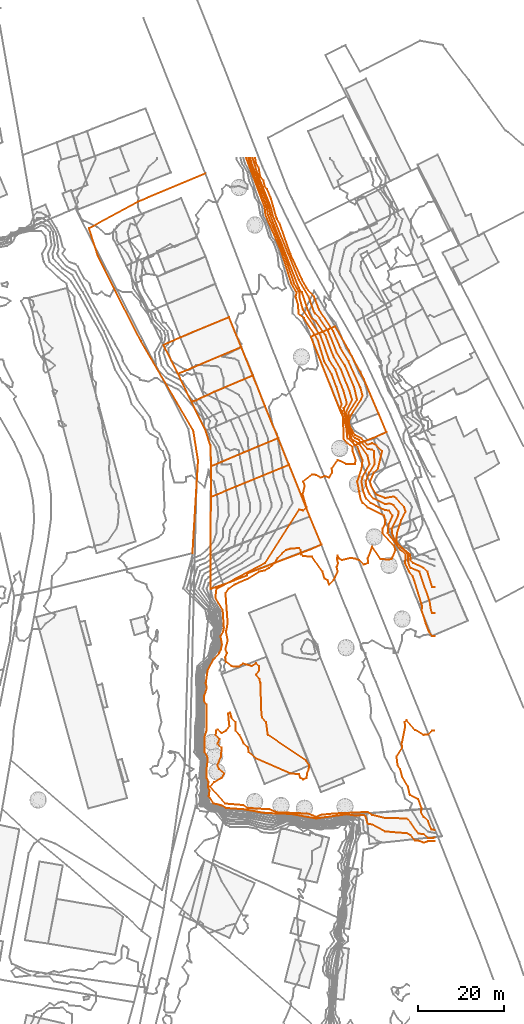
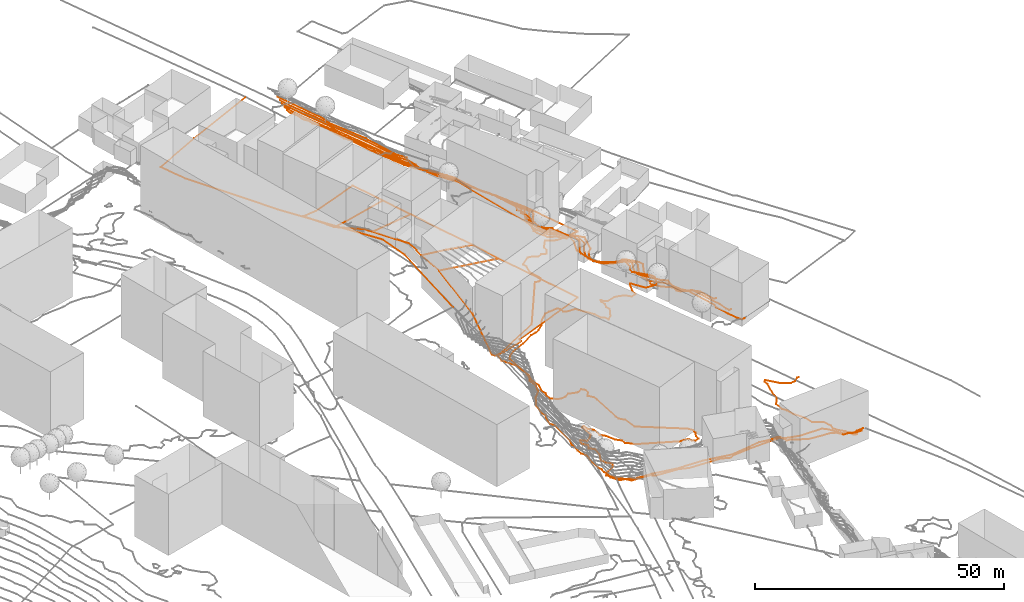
# Not in any storey, part 383 of 419: 13 proxies.
"""IFC2X3 model written with IfcOpenShell, lengths in metres."""

from ifc_helpers import new_model, entity, si_unit, frame, origin_with_axes, place, context, subcontext, project, element, save


model = new_model("IFC2X3")

# Units and contexts
model_context = context("Model", 3, precision=1e-05, world=origin_with_axes())
body_context = subcontext(model_context, "Body", "Model", "MODEL_VIEW")
ifc_project = project(units=[si_unit("AREAUNIT", "SQUARE_METRE"), si_unit("LENGTHUNIT", "METRE")], contexts=[model_context])

# Proxies
proxy_1_placement = place(None, frame((896.1920204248, 1015.7976909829, 93.6), z_axis=(0.0, 0.0, 1.0), x_axis=(1.0, 0.0, 0.0)))
element("IfcBuildingElementProxy", 1, at=proxy_1_placement, Name="Route 287", ObjectType="NOTDEFINED", context=body_context, shape_type="GeometricCurveSet", body=[
    entity("IfcGeometricCurveSet", [entity("IfcPolyline", [entity("IfcCartesianPoint", [27.1, 12.7999999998, -0.1]), entity("IfcCartesianPoint", [11.4, 6.1999999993, -0.7]), entity("IfcCartesianPoint", [0.0, 0.0, 0.0]), entity("IfcCartesianPoint", [2.1, -6.5, 0.4]), entity("IfcCartesianPoint", [12.1, -26.3000000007, 1.3]), entity("IfcCartesianPoint", [24.3, -47.1000000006, 2.3]), entity("IfcCartesianPoint", [25.4, -54.0, 2.4]), entity("IfcCartesianPoint", [24.1, -75.6000000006, 3.2])])]),
])
proxy_2_placement = place(None, frame((916.9020204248, 981.9576909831, 92.1834995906), z_axis=(0.0, 0.0, 1.0), x_axis=(1.0, 0.0, 0.0)))
element("IfcBuildingElementProxy", 2, at=proxy_2_placement, Name="Cadastre 226", ObjectType="NOTDEFINED", context=body_context, shape_type="GeometricCurveSet", body=[
    entity("IfcGeometricCurveSet", [entity("IfcPolyline", [entity("IfcCartesianPoint", [17.4399999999, -0.4000000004, -2.737999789]), entity("IfcCartesianPoint", [8.5499999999, -4.1800000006, -0.5573675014]), entity("IfcCartesianPoint", [6.09, -5.29, 0.0555395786]), entity("IfcCartesianPoint", [4.1899999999, -6.21, 1.3675011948]), entity("IfcCartesianPoint", [3.14, -6.5100000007, 2.3468008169]), entity("IfcCartesianPoint", [0.0, 0.0, 0.0]), entity("IfcCartesianPoint", [3.47, 1.4099999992, -0.7079582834]), entity("IfcCartesianPoint", [14.74, 6.1899999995, -2.4209987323]), entity("IfcCartesianPoint", [17.4399999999, -0.4000000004, -2.737999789])])]),
])
proxy_3_placement = place(None, frame((913.5520204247, 988.667690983, 91.9452704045), z_axis=(0.0, 0.0, 1.0), x_axis=(1.0, 0.0, 0.0)))
element("IfcBuildingElementProxy", 3, at=proxy_3_placement, Name="Cadastre 227", ObjectType="NOTDEFINED", context=body_context, shape_type="GeometricCurveSet", body=[
    entity("IfcGeometricCurveSet", [entity("IfcPolyline", [entity("IfcCartesianPoint", [18.0900000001, -0.5200000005, -2.1827695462]), entity("IfcCartesianPoint", [6.8200000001, -5.3000000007, -0.4697290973]), entity("IfcCartesianPoint", [3.3500000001, -6.71, 0.2382291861]), entity("IfcCartesianPoint", [0.0, 0.0, 0.0]), entity("IfcCartesianPoint", [3.9300000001, 1.7699999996, -1.1996286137]), entity("IfcCartesianPoint", [15.2300000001, 6.46, -1.7477330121]), entity("IfcCartesianPoint", [18.0900000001, -0.5200000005, -2.1827695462])])]),
])
proxy_4_placement = place(None, frame((924.5120204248, 939.6776909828, 94.0110223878), z_axis=(0.0, 0.0, 1.0), x_axis=(1.0, 0.0, 0.0)))
element("IfcBuildingElementProxy", 4, at=proxy_4_placement, Name="Cadastre 235", ObjectType="NOTDEFINED", context=body_context, shape_type="GeometricCurveSet", body=[
    entity("IfcGeometricCurveSet", [entity("IfcPolyline", [entity("IfcCartesianPoint", [25.7899999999, 2.54, -6.6321088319]), entity("IfcCartesianPoint", [23.14, 1.3499999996, -6.618078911]), entity("IfcCartesianPoint", [8.47, -4.2199999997, -6.7166226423]), entity("IfcCartesianPoint", [8.5, -4.6600000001, -6.957506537]), entity("IfcCartesianPoint", [3.01, -6.79, -6.5074188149]), entity("IfcCartesianPoint", [0.88, -7.4699999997, -6.0826634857]), entity("IfcCartesianPoint", [0.03, -7.7999999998, -5.3971232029]), entity("IfcCartesianPoint", [0.0, 0.0, 0.0]), entity("IfcCartesianPoint", [0.0699999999, 13.5999999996, 2.2431777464]), entity("IfcCartesianPoint", [18.23, 21.0800000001, -5.7138399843]), entity("IfcCartesianPoint", [23.08, 9.0499999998, -6.2475220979]), entity("IfcCartesianPoint", [25.7899999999, 2.54, -6.6321088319])])]),
])
proxy_5_placement = place(None, frame((924.5820204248, 953.2776909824, 96.2542001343), z_axis=(0.0, 0.0, 1.0), x_axis=(1.0, 0.0, 0.0)))
element("IfcBuildingElementProxy", 5, at=proxy_5_placement, Name="Cadastre 236", ObjectType="NOTDEFINED", context=body_context, shape_type="GeometricCurveSet", body=[
    entity("IfcGeometricCurveSet", [entity("IfcPolyline", [entity("IfcCartesianPoint", [0.0, 0.0, 0.0]), entity("IfcCartesianPoint", [0.03, 7.1400000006, -0.6176387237]), entity("IfcCartesianPoint", [7.67, 10.3799999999, -3.8865161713]), entity("IfcCartesianPoint", [15.67, 13.6699999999, -7.4884296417]), entity("IfcCartesianPoint", [18.16, 7.4800000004, -7.9570177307]), entity("IfcCartesianPoint", [0.0, 0.0, 0.0])])]),
])
proxy_6_placement = place(None, frame((920.0420204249, 975.4476909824, 94.5303004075), z_axis=(0.0, 0.0, 1.0), x_axis=(1.0, 0.0, 0.0)))
element("IfcBuildingElementProxy", 6, at=proxy_6_placement, Name="Cadastre 237", ObjectType="NOTDEFINED", context=body_context, shape_type="GeometricCurveSet", body=[
    entity("IfcGeometricCurveSet", [entity("IfcPolyline", [entity("IfcCartesianPoint", [4.5699999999, -15.0299999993, 1.1062610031]), entity("IfcCartesianPoint", [4.5399999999, -13.1099999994, 1.2907532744]), entity("IfcCartesianPoint", [4.4199999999, -10.1899999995, 1.1722105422]), entity("IfcCartesianPoint", [3.3099999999, -6.71, 0.4915562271]), entity("IfcCartesianPoint", [0.0, 0.0, 0.0]), entity("IfcCartesianPoint", [1.0499999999, 0.3000000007, -0.9792996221]), entity("IfcCartesianPoint", [2.95, 1.2200000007, -2.2912612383]), entity("IfcCartesianPoint", [5.4099999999, 2.3300000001, -2.9041683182]), entity("IfcCartesianPoint", [14.2999999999, 6.1100000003, -5.0848006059]), entity("IfcCartesianPoint", [17.12, -1.04, -5.4589894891]), entity("IfcCartesianPoint", [20.21, -8.5, -5.764529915]), entity("IfcCartesianPoint", [12.21, -11.79, -2.1626164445]), entity("IfcCartesianPoint", [4.5699999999, -15.0299999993, 1.1062610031])])]),
])
proxy_7_placement = place(None, frame((947.8620204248, 990.5976909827, 88.8246007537), z_axis=(0.0, 0.0, 1.0), x_axis=(1.0, 0.0, 0.0)))
element("IfcBuildingElementProxy", 7, at=proxy_7_placement, Name="Cadastre 241", ObjectType="NOTDEFINED", context=body_context, shape_type="GeometricCurveSet", body=[
    entity("IfcGeometricCurveSet", [entity("IfcPolyline", [entity("IfcCartesianPoint", [0.0, 0.0, 0.0]), entity("IfcCartesianPoint", [1.76, 0.7299999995, -1.8309334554]), entity("IfcCartesianPoint", [5.66, 2.3700000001, -5.7954689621]), entity("IfcCartesianPoint", [8.86, -3.2300000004, -5.9925378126]), entity("IfcCartesianPoint", [10.21, -5.9400000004, -5.9230501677]), entity("IfcCartesianPoint", [11.52, -8.25, -6.0480393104]), entity("IfcCartesianPoint", [12.37, -10.0300000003, -6.0479096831]), entity("IfcCartesianPoint", [15.77, -17.9299999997, -6.3638503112]), entity("IfcCartesianPoint", [17.5600000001, -22.2300000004, -6.4800054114]), entity("IfcCartesianPoint", [14.49, -23.6100000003, -5.5554055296]), entity("IfcCartesianPoint", [11.4399999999, -24.6900000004, -3.5456808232]), entity("IfcCartesianPoint", [10.12, -25.3100000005, -1.5341977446]), entity("IfcCartesianPoint", [9.51, -23.7199999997, -2.8202721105]), entity("IfcCartesianPoint", [8.42, -20.79, -3.794284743]), entity("IfcCartesianPoint", [7.61, -19.1399999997, -2.6668717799]), entity("IfcCartesianPoint", [0.0, 0.0, 0.0])])]),
])
proxy_8_placement = place(None, frame((934.8481169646, 1032.3976909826, 84.0), z_axis=(0.0, 0.0, 1.0), x_axis=(1.0, 0.0, 0.0)))
element("IfcBuildingElementProxy", 8, at=proxy_8_placement, Name="Contour 84.0 m", ObjectType="NOTDEFINED", context=body_context, shape_type="GeometricCurveSet", body=[
    entity("IfcGeometricCurveSet", [entity("IfcPolyline", [entity("IfcCartesianPoint", [0.0, 0.0, 0.0]), entity("IfcCartesianPoint", [0.2439034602, -1.4523887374, 0.0]), entity("IfcCartesianPoint", [0.8571094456, -2.5, 0.0]), entity("IfcCartesianPoint", [1.203418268, -4.5, 0.0]), entity("IfcCartesianPoint", [1.959286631, -5.5, 0.0]), entity("IfcCartesianPoint", [2.2439034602, -6.798852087, 0.0]), entity("IfcCartesianPoint", [2.8193770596, -7.5, 0.0]), entity("IfcCartesianPoint", [3.6661254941, -9.5, 0.0]), entity("IfcCartesianPoint", [5.0951853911, -14.5, 0.0]), entity("IfcCartesianPoint", [5.7439043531, -15.5, 0.0]), entity("IfcCartesianPoint", [8.2439034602, -22.5657933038, 0.0]), entity("IfcCartesianPoint", [10.9362107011, -28.5, 0.0]), entity("IfcCartesianPoint", [12.0124993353, -30.5, 0.0]), entity("IfcCartesianPoint", [13.7378826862, -32.5, 0.0]), entity("IfcCartesianPoint", [14.9105701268, -35.5, 0.0]), entity("IfcCartesianPoint", [18.1979255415, -40.5, 0.0]), entity("IfcCartesianPoint", [19.8986659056, -44.5, 0.0]), entity("IfcCartesianPoint", [21.7215162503, -47.5, 0.0]), entity("IfcCartesianPoint", [24.484412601, -53.5, 0.0]), entity("IfcCartesianPoint", [25.0247213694, -55.5, 0.0]), entity("IfcCartesianPoint", [24.6456882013, -56.5, 0.0]), entity("IfcCartesianPoint", [22.2439034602, -60.1849283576, 0.0]), entity("IfcCartesianPoint", [21.8527468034, -61.5, 0.0]), entity("IfcCartesianPoint", [22.0100318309, -62.5, 0.0]), entity("IfcCartesianPoint", [23.2439034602, -64.7302157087, 0.0]), entity("IfcCartesianPoint", [24.7867587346, -65.5, 0.0]), entity("IfcCartesianPoint", [26.2439034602, -66.9951482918, 0.0]), entity("IfcCartesianPoint", [27.2439034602, -66.6369850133, 0.0]), entity("IfcCartesianPoint", [28.2439034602, -67.1610200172, 0.0]), entity("IfcCartesianPoint", [29.583190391, -68.5, 0.0]), entity("IfcCartesianPoint", [28.602110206, -72.5, 0.0]), entity("IfcCartesianPoint", [27.6395069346, -73.5, 0.0]), entity("IfcCartesianPoint", [26.7488550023, -75.5, 0.0]), entity("IfcCartesianPoint", [26.9648363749, -76.5, 0.0]), entity("IfcCartesianPoint", [28.2439034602, -78.5526326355, 0.0]), entity("IfcCartesianPoint", [30.2439034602, -79.3695695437, 0.0]), entity("IfcCartesianPoint", [32.2439034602, -79.0342488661, 0.0]), entity("IfcCartesianPoint", [32.983027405, -79.5, 0.0]), entity("IfcCartesianPoint", [34.7439051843, -81.5, 0.0]), entity("IfcCartesianPoint", [35.0216765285, -82.5, 0.0]), entity("IfcCartesianPoint", [34.0189039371, -84.5, 0.0]), entity("IfcCartesianPoint", [33.0314045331, -87.5, 0.0]), entity("IfcCartesianPoint", [32.9553129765, -89.5, 0.0]), entity("IfcCartesianPoint", [34.2439034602, -91.040625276, 0.0]), entity("IfcCartesianPoint", [36.0802665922, -92.5, 0.0]), entity("IfcCartesianPoint", [36.2439034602, -93.9090893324, 0.0]), entity("IfcCartesianPoint", [36.8091266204, -94.5, 0.0]), entity("IfcCartesianPoint", [39.2439034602, -95.6296288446, 0.0]), entity("IfcCartesianPoint", [40.1142746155, -96.5, 0.0]), entity("IfcCartesianPoint", [41.2439034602, -100.0624910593, 0.0]), entity("IfcCartesianPoint", [41.7439034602, -100.0624910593, 0.0])])]),
])
proxy_9_placement = place(None, frame((934.2383606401, 1032.3976909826, 85.0), z_axis=(0.0, 0.0, 1.0), x_axis=(1.0, 0.0, 0.0)))
element("IfcBuildingElementProxy", 9, at=proxy_9_placement, Name="Contour 85.0 m", ObjectType="NOTDEFINED", context=body_context, shape_type="GeometricCurveSet", body=[
    entity("IfcGeometricCurveSet", [entity("IfcPolyline", [entity("IfcCartesianPoint", [0.0, 0.0, 0.0]), entity("IfcCartesianPoint", [1.4083164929, -4.5, 0.0]), entity("IfcCartesianPoint", [4.2643736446, -11.5, 0.0]), entity("IfcCartesianPoint", [4.7199701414, -13.5, 0.0]), entity("IfcCartesianPoint", [10.8536597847, -28.6886768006, 0.0]), entity("IfcCartesianPoint", [13.0874274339, -32.5, 0.0]), entity("IfcCartesianPoint", [14.5469886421, -36.5, 0.0]), entity("IfcCartesianPoint", [15.586997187, -37.5, 0.0]), entity("IfcCartesianPoint", [17.6463448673, -40.5, 0.0]), entity("IfcCartesianPoint", [19.6408958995, -45.5, 0.0]), entity("IfcCartesianPoint", [21.5293374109, -48.5, 0.0]), entity("IfcCartesianPoint", [23.686993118, -53.5, 0.0]), entity("IfcCartesianPoint", [24.3490716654, -56.5, 0.0]), entity("IfcCartesianPoint", [22.4072323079, -59.5, 0.0]), entity("IfcCartesianPoint", [22.1223673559, -61.5, 0.0]), entity("IfcCartesianPoint", [23.1552470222, -64.5, 0.0]), entity("IfcCartesianPoint", [23.8536597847, -65.4496404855, 0.0]), entity("IfcCartesianPoint", [24.8536597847, -65.8467750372, 0.0]), entity("IfcCartesianPoint", [26.8536597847, -67.9615412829, 0.0]), entity("IfcCartesianPoint", [27.8536597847, -68.1379337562, 0.0]), entity("IfcCartesianPoint", [28.3101804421, -68.5, 0.0]), entity("IfcCartesianPoint", [28.433204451, -71.5, 0.0]), entity("IfcCartesianPoint", [27.1728111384, -73.5, 0.0]), entity("IfcCartesianPoint", [26.3685107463, -75.5, 0.0]), entity("IfcCartesianPoint", [26.477422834, -76.5, 0.0]), entity("IfcCartesianPoint", [27.2682896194, -78.5, 0.0]), entity("IfcCartesianPoint", [28.2025002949, -79.5, 0.0]), entity("IfcCartesianPoint", [30.8536597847, -80.8142854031, 0.0]), entity("IfcCartesianPoint", [31.8536597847, -80.623283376, 0.0]), entity("IfcCartesianPoint", [32.8536597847, -81.0116303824, 0.0]), entity("IfcCartesianPoint", [34.0536597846, -82.5, 0.0]), entity("IfcCartesianPoint", [33.9030437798, -83.5, 0.0]), entity("IfcCartesianPoint", [32.4412875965, -86.5, 0.0]), entity("IfcCartesianPoint", [32.4909135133, -87.5, 0.0]), entity("IfcCartesianPoint", [33.2294992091, -89.5, 0.0]), entity("IfcCartesianPoint", [36.2354768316, -92.5, 0.0]), entity("IfcCartesianPoint", [36.3014210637, -94.5, 0.0]), entity("IfcCartesianPoint", [36.8536597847, -95.6428571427, 0.0]), entity("IfcCartesianPoint", [38.8721822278, -96.5, 0.0]), entity("IfcCartesianPoint", [41.2722648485, -103.5, 0.0]), entity("IfcCartesianPoint", [41.5869897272, -105.5, 0.0]), entity("IfcCartesianPoint", [41.8536597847, -106.2058744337, 0.0]), entity("IfcCartesianPoint", [42.3536597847, -106.2058744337, 0.0])])]),
])
proxy_10_placement = place(None, frame((933.7401681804, 1032.3976909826, 86.0), z_axis=(0.0, 0.0, 1.0), x_axis=(1.0, 0.0, 0.0)))
element("IfcBuildingElementProxy", 10, at=proxy_10_placement, Name="Contour 86.0 m", ObjectType="NOTDEFINED", context=body_context, shape_type="GeometricCurveSet", body=[
    entity("IfcGeometricCurveSet", [entity("IfcPolyline", [entity("IfcCartesianPoint", [0.0, 0.0, 0.0]), entity("IfcCartesianPoint", [0.3472429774, -1.5, 0.0]), entity("IfcCartesianPoint", [4.3122474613, -11.5, 0.0]), entity("IfcCartesianPoint", [4.6834040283, -13.5, 0.0]), entity("IfcCartesianPoint", [11.3265352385, -30.5, 0.0]), entity("IfcCartesianPoint", [12.0432802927, -31.5, 0.0]), entity("IfcCartesianPoint", [13.3650129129, -35.5, 0.0]), entity("IfcCartesianPoint", [14.3518522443, -37.5555588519, 0.0]), entity("IfcCartesianPoint", [15.3518522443, -38.2894687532, 0.0]), entity("IfcCartesianPoint", [17.5091550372, -41.5, 0.0]), entity("IfcCartesianPoint", [19.4089960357, -46.5, 0.0]), entity("IfcCartesianPoint", [21.1366649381, -49.5, 0.0]), entity("IfcCartesianPoint", [23.1180845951, -54.5, 0.0]), entity("IfcCartesianPoint", [23.7129657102, -56.5, 0.0]), entity("IfcCartesianPoint", [22.2079138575, -59.5, 0.0]), entity("IfcCartesianPoint", [22.555423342, -60.5, 0.0]), entity("IfcCartesianPoint", [22.2746467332, -61.5, 0.0]), entity("IfcCartesianPoint", [23.2918546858, -65.5, 0.0]), entity("IfcCartesianPoint", [25.3518522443, -66.763891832, 0.0]), entity("IfcCartesianPoint", [27.3074149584, -69.5, 0.0]), entity("IfcCartesianPoint", [27.7393514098, -71.5, 0.0]), entity("IfcCartesianPoint", [26.1071684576, -74.5, 0.0]), entity("IfcCartesianPoint", [25.8766024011, -75.5, 0.0]), entity("IfcCartesianPoint", [26.2185160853, -77.5, 0.0]), entity("IfcCartesianPoint", [26.943399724, -79.5, 0.0]), entity("IfcCartesianPoint", [27.9864659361, -80.5, 0.0]), entity("IfcCartesianPoint", [29.3518522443, -81.2857135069, 0.0]), entity("IfcCartesianPoint", [31.3518522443, -82.2123283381, 0.0]), entity("IfcCartesianPoint", [32.3518522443, -82.2826115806, 0.0]), entity("IfcCartesianPoint", [33.1130428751, -83.5, 0.0]), entity("IfcCartesianPoint", [32.1993096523, -85.5, 0.0]), entity("IfcCartesianPoint", [32.018518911, -87.5, 0.0]), entity("IfcCartesianPoint", [34.9863350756, -91.5, 0.0]), entity("IfcCartesianPoint", [36.1834281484, -92.5, 0.0]), entity("IfcCartesianPoint", [36.0441594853, -94.5, 0.0]), entity("IfcCartesianPoint", [36.9470929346, -96.5, 0.0]), entity("IfcCartesianPoint", [37.8333368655, -97.5, 0.0]), entity("IfcCartesianPoint", [39.999996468, -104.5, 0.0]), entity("IfcCartesianPoint", [39.8837657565, -105.5, 0.0]), entity("IfcCartesianPoint", [40.8518550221, -108.5, 0.0]), entity("IfcCartesianPoint", [41.5740791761, -110.5, 0.0]), entity("IfcCartesianPoint", [42.3518522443, -111.4999928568, 0.0]), entity("IfcCartesianPoint", [42.8518522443, -111.4999928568, 0.0])])]),
])
proxy_11_placement = place(None, frame((967.7795085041, 892.8976909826, 85.0), z_axis=(0.0, 0.0, 1.0), x_axis=(1.0, 0.0, 0.0)))
element("IfcBuildingElementProxy", 11, at=proxy_11_placement, Name="Contour 85.0 m", ObjectType="NOTDEFINED", context=body_context, shape_type="GeometricCurveSet", body=[
    entity("IfcGeometricCurveSet", [entity("IfcPolyline", [entity("IfcCartesianPoint", [8.8125119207, 5.999966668, 0.0]), entity("IfcCartesianPoint", [8.3125119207, 5.999966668, 0.0]), entity("IfcCartesianPoint", [7.3125119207, 5.1250238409, 0.0]), entity("IfcCartesianPoint", [6.3124119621, 5.0, 0.0]), entity("IfcCartesianPoint", [4.3125119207, 6.1428882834, 0.0]), entity("IfcCartesianPoint", [2.3125119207, 8.4545706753, 0.0]), entity("IfcCartesianPoint", [1.8958293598, 8.0, 0.0]), entity("IfcCartesianPoint", [2.0458418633, 7.0, 0.0]), entity("IfcCartesianPoint", [1.2124890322, 3.0, 0.0]), entity("IfcCartesianPoint", [1.312526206, 2.0, 0.0]), entity("IfcCartesianPoint", [0.0, 0.0, 0.0]), entity("IfcCartesianPoint", [0.2458435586, -2.0, 0.0]), entity("IfcCartesianPoint", [0.8530513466, -3.0, 0.0]), entity("IfcCartesianPoint", [1.3125119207, -4.6922941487, 0.0]), entity("IfcCartesianPoint", [2.6539771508, -7.0, 0.0]), entity("IfcCartesianPoint", [3.1019813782, -9.0, 0.0]), entity("IfcCartesianPoint", [5.0692753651, -10.0, 0.0]), entity("IfcCartesianPoint", [5.8241423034, -12.0, 0.0]), entity("IfcCartesianPoint", [5.6971318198, -13.0, 0.0]), entity("IfcCartesianPoint", [6.3125119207, -14.0882326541, 0.0]), entity("IfcCartesianPoint", [7.3125119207, -15.0250052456, 0.0]), entity("IfcCartesianPoint", [8.1335659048, -17.0, 0.0]), entity("IfcCartesianPoint", [8.8125119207, -17.125924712, 0.0])])]),
])
proxy_12_placement = place(None, frame((924.4254385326, 885.8976909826, 87.0), z_axis=(0.0, 0.0, 1.0), x_axis=(1.0, 0.0, 0.0)))
element("IfcBuildingElementProxy", 12, at=proxy_12_placement, Name="Contour 87.0 m", ObjectType="NOTDEFINED", context=body_context, shape_type="GeometricCurveSet", body=[
    entity("IfcGeometricCurveSet", [entity("IfcPolyline", [entity("IfcCartesianPoint", [8.8517674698, 146.5, 0.0]), entity("IfcCartesianPoint", [9.2011443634, 145.0, 0.0]), entity("IfcCartesianPoint", [13.1319286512, 135.0, 0.0]), entity("IfcCartesianPoint", [13.4481923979, 133.0, 0.0]), entity("IfcCartesianPoint", [16.8157031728, 125.0, 0.0]), entity("IfcCartesianPoint", [19.5504528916, 117.0, 0.0]), entity("IfcCartesianPoint", [20.786581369, 115.0, 0.0]), entity("IfcCartesianPoint", [20.7455260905, 114.0, 0.0]), entity("IfcCartesianPoint", [21.571342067, 111.0, 0.0]), entity("IfcCartesianPoint", [25.6665818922, 104.9761857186, 0.0]), entity("IfcCartesianPoint", [27.6665818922, 99.3499971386, 0.0]), entity("IfcCartesianPoint", [29.1313738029, 97.0, 0.0]), entity("IfcCartesianPoint", [31.0453676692, 92.0, 0.0]), entity("IfcCartesianPoint", [31.6665818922, 89.8749761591, 0.0]), entity("IfcCartesianPoint", [31.7296446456, 89.0, 0.0]), entity("IfcCartesianPoint", [31.0772943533, 88.0, 0.0]), entity("IfcCartesianPoint", [31.4471938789, 86.0, 0.0]), entity("IfcCartesianPoint", [31.2217294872, 85.0, 0.0]), entity("IfcCartesianPoint", [31.6665818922, 83.6153801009, 0.0]), entity("IfcCartesianPoint", [31.939917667, 81.0, 0.0]), entity("IfcCartesianPoint", [34.2749157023, 79.0, 0.0]), entity("IfcCartesianPoint", [35.4478326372, 76.0, 0.0]), entity("IfcCartesianPoint", [35.240110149, 74.0, 0.0]), entity("IfcCartesianPoint", [34.2012351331, 71.0, 0.0]), entity("IfcCartesianPoint", [34.9842255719, 67.0, 0.0]), entity("IfcCartesianPoint", [35.4801414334, 66.0, 0.0]), entity("IfcCartesianPoint", [36.6665818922, 64.9074019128, 0.0]), entity("IfcCartesianPoint", [40.4665869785, 63.0, 0.0]), entity("IfcCartesianPoint", [40.7607018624, 62.0, 0.0]), entity("IfcCartesianPoint", [40.6665827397, 61.0, 0.0]), entity("IfcCartesianPoint", [40.1211248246, 60.0, 0.0]), entity("IfcCartesianPoint", [40.0783430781, 59.0, 0.0]), entity("IfcCartesianPoint", [42.8132493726, 56.0, 0.0]), entity("IfcCartesianPoint", [43.0951377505, 55.0, 0.0]), entity("IfcCartesianPoint", [42.2666124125, 53.0, 0.0]), entity("IfcCartesianPoint", [41.6665818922, 52.7857220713, 0.0]), entity("IfcCartesianPoint", [39.6665818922, 52.9090719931, 0.0]), entity("IfcCartesianPoint", [37.6665818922, 55.7999694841, 0.0]), entity("IfcCartesianPoint", [36.6666152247, 53.0, 0.0]), entity("IfcCartesianPoint", [36.7777118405, 52.0, 0.0]), entity("IfcCartesianPoint", [35.6665818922, 51.6667090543, 0.0]), entity("IfcCartesianPoint", [34.6665818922, 52.6665818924, 0.0]), entity("IfcCartesianPoint", [33.6665318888, 53.0, 0.0]), entity("IfcCartesianPoint", [32.6665818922, 53.1999694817, 0.0]), entity("IfcCartesianPoint", [30.6665818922, 52.6874880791, 0.0]), entity("IfcCartesianPoint", [30.0415580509, 53.0, 0.0]), entity("IfcCartesianPoint", [29.6665818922, 53.7499523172, 0.0]), entity("IfcCartesianPoint", [29.4665920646, 53.0, 0.0]), entity("IfcCartesianPoint", [29.7499311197, 52.0, 0.0]), entity("IfcCartesianPoint", [29.4166057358, 51.0, 0.0]), entity("IfcCartesianPoint", [29.6665930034, 50.0, 0.0]), entity("IfcCartesianPoint", [28.6665961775, 48.0, 0.0]), entity("IfcCartesianPoint", [27.6665818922, 46.9999923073, 0.0]), entity("IfcCartesianPoint", [27.3332485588, 48.0, 0.0]), entity("IfcCartesianPoint", [26.6665818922, 48.3333192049, 0.0]), entity("IfcCartesianPoint", [26.0951533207, 50.0, 0.0]), entity("IfcCartesianPoint", [23.6665818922, 53.5185153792, 0.0]), entity("IfcCartesianPoint", [21.6665818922, 53.5757617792, 0.0]), entity("IfcCartesianPoint", [21.1281271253, 54.0, 0.0]), entity("IfcCartesianPoint", [21.0665818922, 55.0, 0.0]), entity("IfcCartesianPoint", [20.6665818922, 55.4999937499, 0.0]), entity("IfcCartesianPoint", [18.6665818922, 55.2999923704, 0.0]), entity("IfcCartesianPoint", [17.6665818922, 55.0666802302, 0.0]), entity("IfcCartesianPoint", [16.6665818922, 54.2142779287, 0.0]), entity("IfcCartesianPoint", [15.6665818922, 53.1785782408, 0.0]), entity("IfcCartesianPoint", [15.0214253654, 52.0, 0.0]), entity("IfcCartesianPoint", [13.6665818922, 50.8541683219, 0.0]), entity("IfcCartesianPoint", [12.6665818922, 50.2758675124, 0.0]), entity("IfcCartesianPoint", [11.4233453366, 50.0, 0.0]), entity("IfcCartesianPoint", [8.6665818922, 48.3103443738, 0.0]), entity("IfcCartesianPoint", [5.6415766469, 47.0, 0.0]), entity("IfcCartesianPoint", [4.2872706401, 46.0, 0.0]), entity("IfcCartesianPoint", [3.555489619, 45.0, 0.0]), entity("IfcCartesianPoint", [4.0665818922, 38.0, 0.0]), entity("IfcCartesianPoint", [3.666598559, 36.0, 0.0]), entity("IfcCartesianPoint", [4.0951377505, 34.0, 0.0]), entity("IfcCartesianPoint", [3.5207502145, 32.0, 0.0]), entity("IfcCartesianPoint", [3.8666124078, 31.0, 0.0]), entity("IfcCartesianPoint", [3.4998940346, 30.0, 0.0]), entity("IfcCartesianPoint", [3.6666152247, 29.0, 0.0]), entity("IfcCartesianPoint", [4.9166295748, 28.0, 0.0]), entity("IfcCartesianPoint", [5.6665818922, 27.8571480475, 0.0]), entity("IfcCartesianPoint", [6.6665818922, 27.9473578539, 0.0]), entity("IfcCartesianPoint", [7.6665818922, 28.5714441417, 0.0]), entity("IfcCartesianPoint", [9.6665818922, 28.0000099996, 0.0]), entity("IfcCartesianPoint", [10.6665818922, 28.6665818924, 0.0]), entity("IfcCartesianPoint", [11.3331637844, 28.0, 0.0]), entity("IfcCartesianPoint", [11.3331637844, 27.0, 0.0]), entity("IfcCartesianPoint", [10.6666818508, 26.0, 0.0]), entity("IfcCartesianPoint", [11.4665513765, 25.0, 0.0]), entity("IfcCartesianPoint", [11.6666018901, 24.0, 0.0]), entity("IfcCartesianPoint", [11.9166295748, 17.0, 0.0]), entity("IfcCartesianPoint", [12.0665513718, 16.0, 0.0]), entity("IfcCartesianPoint", [13.0, 15.0, 0.0]), entity("IfcCartesianPoint", [13.4165342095, 12.0, 0.0]), entity("IfcCartesianPoint", [22.3331637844, 6.0, 0.0]), entity("IfcCartesianPoint", [22.9998728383, 5.0, 0.0]), entity("IfcCartesianPoint", [22.9392965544, 4.0, 0.0]), entity("IfcCartesianPoint", [22.4999222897, 3.0, 0.0]), entity("IfcCartesianPoint", [22.4665920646, 2.0, 0.0]), entity("IfcCartesianPoint", [21.6665818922, 1.6470548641, 0.0]), entity("IfcCartesianPoint", [20.999901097, 2.0, 0.0]), entity("IfcCartesianPoint", [20.6665818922, 2.8571117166, 0.0]), entity("IfcCartesianPoint", [18.6665318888, 3.0, 0.0]), entity("IfcCartesianPoint", [10.6665818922, 6.4999749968, 0.0]), entity("IfcCartesianPoint", [8.9522494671, 8.0, 0.0]), entity("IfcCartesianPoint", [8.8094156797, 9.0, 0.0]), entity("IfcCartesianPoint", [7.8094156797, 10.0, 0.0]), entity("IfcCartesianPoint", [6.8332273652, 12.0, 0.0]), entity("IfcCartesianPoint", [5.9165580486, 13.0, 0.0]), entity("IfcCartesianPoint", [5.8483811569, 15.0, 0.0]), entity("IfcCartesianPoint", [4.9165580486, 16.0, 0.0]), entity("IfcCartesianPoint", [4.6665818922, 17.2221939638, 0.0]), entity("IfcCartesianPoint", [4.1666068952, 17.0, 0.0]), entity("IfcCartesianPoint", [4.4665513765, 14.0, 0.0]), entity("IfcCartesianPoint", [3.6665818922, 12.999966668, 0.0]), entity("IfcCartesianPoint", [2.6665818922, 12.4000152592, 0.0]), entity("IfcCartesianPoint", [1.6665818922, 13.285667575, 0.0]), entity("IfcCartesianPoint", [1.3809143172, 13.0, 0.0]), entity("IfcCartesianPoint", [1.2665666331, 12.0, 0.0]), entity("IfcCartesianPoint", [2.1666068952, 11.0, 0.0]), entity("IfcCartesianPoint", [1.6666318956, 10.0, 0.0]), entity("IfcCartesianPoint", [2.6665961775, 9.0, 0.0]), entity("IfcCartesianPoint", [2.4998940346, 7.0, 0.0]), entity("IfcCartesianPoint", [1.6666068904, 5.0, 0.0]), entity("IfcCartesianPoint", [2.0951377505, 4.0, 0.0]), entity("IfcCartesianPoint", [3.2221468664, 3.0, 0.0]), entity("IfcCartesianPoint", [2.6666018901, 2.0, 0.0]), entity("IfcCartesianPoint", [0.8666124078, 1.0, 0.0]), entity("IfcCartesianPoint", [0.0, 0.0, 0.0]), entity("IfcCartesianPoint", [3.4998940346, -4.0, 0.0]), entity("IfcCartesianPoint", [7.6665818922, -4.3448257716, 0.0]), entity("IfcCartesianPoint", [8.6665818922, -5.0144921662, 0.0]), entity("IfcCartesianPoint", [13.6665818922, -5.326088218, 0.0]), entity("IfcCartesianPoint", [15.6665818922, -6.0333340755, 0.0]), entity("IfcCartesianPoint", [22.6665818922, -6.3219188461, 0.0]), entity("IfcCartesianPoint", [24.6665818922, -7.085822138, 0.0]), entity("IfcCartesianPoint", [25.6665818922, -6.6162772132, 0.0]), entity("IfcCartesianPoint", [28.6665818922, -6.3043463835, 0.0]), entity("IfcCartesianPoint", [36.6665818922, -5.9545470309, 0.0]), entity("IfcCartesianPoint", [37.6665818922, -6.638302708, 0.0]), entity("IfcCartesianPoint", [40.6665818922, -7.3750089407, 0.0]), entity("IfcCartesianPoint", [45.6665818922, -7.448264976, 0.0]), entity("IfcCartesianPoint", [46.6665818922, -8.4117673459, 0.0]), entity("IfcCartesianPoint", [48.4665886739, -11.0, 0.0]), entity("IfcCartesianPoint", [49.6665818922, -11.1052589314, 0.0]), entity("IfcCartesianPoint", [50.6665818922, -12.0215818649, 0.0]), entity("IfcCartesianPoint", [52.1665818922, -11.9534873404, 0.0])])]),
])
proxy_13_placement = place(None, frame((922.938686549, 905.8976909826, 88.0), z_axis=(0.0, 0.0, 1.0), x_axis=(1.0, 0.0, 0.0)))
element("IfcBuildingElementProxy", 13, at=proxy_13_placement, Name="Contour 88.0 m", ObjectType="NOTDEFINED", context=body_context, shape_type="GeometricCurveSet", body=[
    entity("IfcGeometricCurveSet", [entity("IfcPolyline", [entity("IfcCartesianPoint", [9.7806641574, 126.5, 0.0]), entity("IfcCartesianPoint", [14.1205482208, 115.0, 0.0]), entity("IfcCartesianPoint", [14.3602310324, 113.0, 0.0]), entity("IfcCartesianPoint", [17.8688504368, 105.0, 0.0]), entity("IfcCartesianPoint", [20.3920448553, 97.0, 0.0]), entity("IfcCartesianPoint", [21.6301552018, 95.0, 0.0]), entity("IfcCartesianPoint", [21.3755568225, 94.0, 0.0]), entity("IfcCartesianPoint", [21.9866672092, 92.0, 0.0]), entity("IfcCartesianPoint", [21.9961894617, 90.0, 0.0]), entity("IfcCartesianPoint", [23.2979151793, 89.0, 0.0]), entity("IfcCartesianPoint", [26.5120322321, 84.0, 0.0]), entity("IfcCartesianPoint", [28.0003956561, 79.0, 0.0]), entity("IfcCartesianPoint", [29.7533357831, 76.0, 0.0]), entity("IfcCartesianPoint", [30.8506987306, 73.0, 0.0]), entity("IfcCartesianPoint", [32.0945090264, 69.0, 0.0]), entity("IfcCartesianPoint", [31.6796486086, 68.0, 0.0]), entity("IfcCartesianPoint", [32.1533338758, 67.3250014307, 0.0]), entity("IfcCartesianPoint", [32.4237415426, 66.0, 0.0]), entity("IfcCartesianPoint", [32.5120322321, 61.0, 0.0]), entity("IfcCartesianPoint", [33.2497214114, 60.0, 0.0]), entity("IfcCartesianPoint", [34.6341062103, 59.0, 0.0]), entity("IfcCartesianPoint", [34.637201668, 58.0, 0.0]), entity("IfcCartesianPoint", [35.3468759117, 56.0, 0.0]), entity("IfcCartesianPoint", [35.1533338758, 54.9999800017, 0.0]), entity("IfcCartesianPoint", [33.1533338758, 54.999966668, 0.0]), entity("IfcCartesianPoint", [31.1533338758, 55.9999857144, 0.0]), entity("IfcCartesianPoint", [29.7783577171, 54.0, 0.0]), entity("IfcCartesianPoint", [29.819915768, 53.0, 0.0]), entity("IfcCartesianPoint", [29.1533338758, 51.8888700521, 0.0]), entity("IfcCartesianPoint", [28.1533338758, 52.2500476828, 0.0]), entity("IfcCartesianPoint", [27.1533338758, 51.8666836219, 0.0]), entity("IfcCartesianPoint", [26.1533338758, 52.4999749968, 0.0]), entity("IfcCartesianPoint", [25.1533338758, 52.6250238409, 0.0]), entity("IfcCartesianPoint", [23.1533463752, 51.0, 0.0]), entity("IfcCartesianPoint", [23.4866672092, 50.0, 0.0]), entity("IfcCartesianPoint", [22.9933302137, 48.0, 0.0]), entity("IfcCartesianPoint", [23.8533415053, 45.0, 0.0]), entity("IfcCartesianPoint", [23.1533338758, 44.2221939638, 0.0]), entity("IfcCartesianPoint", [22.1533338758, 44.4375089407, 0.0]), entity("IfcCartesianPoint", [14.2302539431, 32.0, 0.0]), entity("IfcCartesianPoint", [2.9457850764, 26.0, 0.0]), entity("IfcCartesianPoint", [2.6819032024, 24.0, 0.0]), entity("IfcCartesianPoint", [4.3914311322, 21.0, 0.0]), entity("IfcCartesianPoint", [4.6657705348, 17.0, 0.0]), entity("IfcCartesianPoint", [4.5039836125, 16.0, 0.0]), entity("IfcCartesianPoint", [3.8945934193, 15.0, 0.0]), entity("IfcCartesianPoint", [4.2281019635, 13.0, 0.0]), entity("IfcCartesianPoint", [3.9654369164, 12.0, 0.0]), entity("IfcCartesianPoint", [3.5837133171, 11.0, 0.0]), entity("IfcCartesianPoint", [2.1533338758, 9.4689264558, 0.0]), entity("IfcCartesianPoint", [0.8649454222, 7.0, 0.0]), entity("IfcCartesianPoint", [0.4508552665, 4.0, 0.0]), entity("IfcCartesianPoint", [0.6870403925, 3.0, 0.0]), entity("IfcCartesianPoint", [0.0784552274, 1.0, 0.0]), entity("IfcCartesianPoint", [0.0, 0.0, 0.0]), entity("IfcCartesianPoint", [0.6286418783, -1.0, 0.0]), entity("IfcCartesianPoint", [0.6013871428, -7.0, 0.0]), entity("IfcCartesianPoint", [0.1533338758, -8.5000083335, 0.0]), entity("IfcCartesianPoint", [0.1533338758, -10.8571117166, 0.0]), entity("IfcCartesianPoint", [0.2286023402, -12.0, 0.0]), entity("IfcCartesianPoint", [0.7831209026, -13.0, 0.0]), entity("IfcCartesianPoint", [0.8907971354, -14.0, 0.0]), entity("IfcCartesianPoint", [0.6033350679, -16.0, 0.0]), entity("IfcCartesianPoint", [0.6827451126, -18.0, 0.0]), entity("IfcCartesianPoint", [1.0717014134, -19.0, 0.0]), entity("IfcCartesianPoint", [0.9580680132, -20.0, 0.0]), entity("IfcCartesianPoint", [1.3228227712, -21.0, 0.0]), entity("IfcCartesianPoint", [1.1533338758, -22.2000000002, 0.0]), entity("IfcCartesianPoint", [2.278336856, -24.0, 0.0]), entity("IfcCartesianPoint", [4.1533338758, -24.3991588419, 0.0]), entity("IfcCartesianPoint", [5.1533338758, -25.034482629, 0.0]), entity("IfcCartesianPoint", [9.1533338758, -25.311558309, 0.0]), entity("IfcCartesianPoint", [14.1533338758, -26.1924895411, 0.0]), entity("IfcCartesianPoint", [20.1533338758, -26.4171602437, 0.0]), entity("IfcCartesianPoint", [26.1533338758, -27.4589564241, 0.0]), entity("IfcCartesianPoint", [33.1533338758, -26.4867546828, 0.0]), entity("IfcCartesianPoint", [35.1533338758, -26.7826083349, 0.0]), entity("IfcCartesianPoint", [37.1533338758, -26.6708869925, 0.0]), entity("IfcCartesianPoint", [37.6681848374, -27.0, 0.0]), entity("IfcCartesianPoint", [38.1533338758, -28.7021297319, 0.0]), entity("IfcCartesianPoint", [39.1533338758, -28.8571480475, 0.0]), entity("IfcCartesianPoint", [42.1533338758, -30.4848568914, 0.0]), entity("IfcCartesianPoint", [47.1533338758, -30.8965562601, 0.0]), entity("IfcCartesianPoint", [48.1533338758, -31.3529451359, 0.0]), entity("IfcCartesianPoint", [49.1533338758, -32.6122442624, 0.0]), entity("IfcCartesianPoint", [50.1533338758, -32.666666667, 0.0]), entity("IfcCartesianPoint", [51.1533338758, -33.0917420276, 0.0]), entity("IfcCartesianPoint", [52.1533338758, -32.7410066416, 0.0]), entity("IfcCartesianPoint", [53.6533338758, -32.6760565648, 0.0])])]),
])

save(model, "model.ifc")
